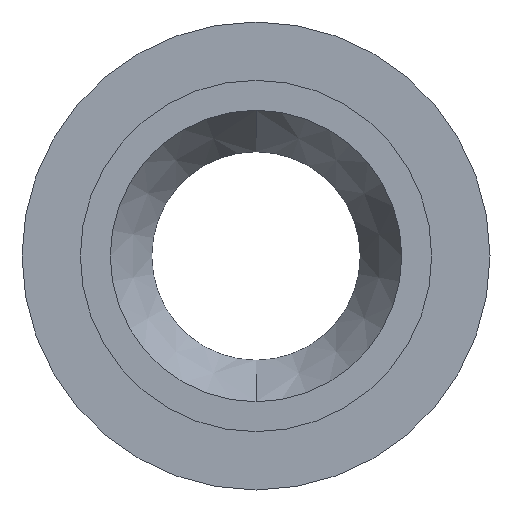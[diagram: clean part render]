
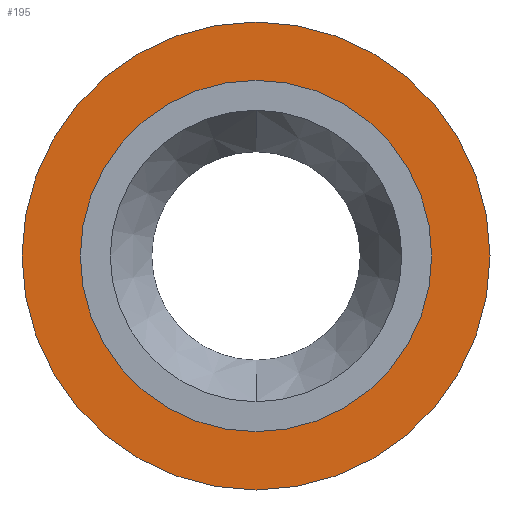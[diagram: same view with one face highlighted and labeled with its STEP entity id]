
A CAD part, front view. The second image highlights one B-rep face of the part: STEP entity #195.
In plain terms, the highlighted planar face has unit normal (0, -1, 0).
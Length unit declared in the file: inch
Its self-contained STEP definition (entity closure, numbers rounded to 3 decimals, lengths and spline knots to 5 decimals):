
#14 = DIRECTION ( 'NONE',  ( 0., 0., 1. ) ) ;
#22 = DIRECTION ( 'NONE',  ( 0., 1., 0. ) ) ;
#27 = CARTESIAN_POINT ( 'NONE',  ( 0., 0.15, 0. ) ) ;
#41 = CARTESIAN_POINT ( 'NONE',  ( 0., 0.15, -0.586 ) ) ;
#52 = EDGE_CURVE ( 'NONE', #125, #80, #367, .T. ) ;
#54 = AXIS2_PLACEMENT_3D ( 'NONE', #27, #355, #215 ) ;
#58 = DIRECTION ( 'NONE',  ( 0., 0., 1. ) ) ;
#60 = CARTESIAN_POINT ( 'NONE',  ( 0., 0.15, 0. ) ) ;
#69 = EDGE_CURVE ( 'NONE', #342, #135, #290, .T. ) ;
#80 = VERTEX_POINT ( 'NONE', #257 ) ;
#94 = ORIENTED_EDGE ( 'NONE', *, *, #69, .T. ) ;
#98 = CARTESIAN_POINT ( 'NONE',  ( 0., 0.15, 0.44 ) ) ;
#100 = CIRCLE ( 'NONE', #54, 0.44 ) ;
#104 = CARTESIAN_POINT ( 'NONE',  ( 0., 0.15, 0. ) ) ;
#105 = AXIS2_PLACEMENT_3D ( 'NONE', #60, #112, #58 ) ;
#112 = DIRECTION ( 'NONE',  ( 0., 1., 0. ) ) ;
#121 = ORIENTED_EDGE ( 'NONE', *, *, #352, .T. ) ;
#125 = VERTEX_POINT ( 'NONE', #41 ) ;
#135 = VERTEX_POINT ( 'NONE', #98 ) ;
#141 = EDGE_LOOP ( 'NONE', ( #94, #121 ) ) ;
#142 = DIRECTION ( 'NONE',  ( 0., 0., 1. ) ) ;
#148 = AXIS2_PLACEMENT_3D ( 'NONE', #167, #223, #14 ) ;
#154 = CARTESIAN_POINT ( 'NONE',  ( 0., 0.15, 0. ) ) ;
#163 = PLANE ( 'NONE',  #238 ) ;
#166 = DIRECTION ( 'NONE',  ( 0., 1., 0. ) ) ;
#167 = CARTESIAN_POINT ( 'NONE',  ( 0., 0.15, 0. ) ) ;
#185 = AXIS2_PLACEMENT_3D ( 'NONE', #154, #22, #380 ) ;
#195 = ADVANCED_FACE ( 'NONE', ( #273, #341 ), #163, .F. ) ;
#215 = DIRECTION ( 'NONE',  ( 0., 0., 1. ) ) ;
#223 = DIRECTION ( 'NONE',  ( 0., 1., 0. ) ) ;
#238 = AXIS2_PLACEMENT_3D ( 'NONE', #104, #166, #142 ) ;
#245 = CARTESIAN_POINT ( 'NONE',  ( 0., 0.15, -0.44 ) ) ;
#257 = CARTESIAN_POINT ( 'NONE',  ( 0., 0.15, 0.586 ) ) ;
#273 = FACE_BOUND ( 'NONE', #141, .T. ) ;
#290 = CIRCLE ( 'NONE', #148, 0.44 ) ;
#294 = ORIENTED_EDGE ( 'NONE', *, *, #52, .F. ) ;
#297 = ORIENTED_EDGE ( 'NONE', *, *, #321, .F. ) ;
#321 = EDGE_CURVE ( 'NONE', #80, #125, #334, .T. ) ;
#334 = CIRCLE ( 'NONE', #185, 0.586 ) ;
#341 = FACE_OUTER_BOUND ( 'NONE', #350, .T. ) ;
#342 = VERTEX_POINT ( 'NONE', #245 ) ;
#350 = EDGE_LOOP ( 'NONE', ( #294, #297 ) ) ;
#352 = EDGE_CURVE ( 'NONE', #135, #342, #100, .T. ) ;
#355 = DIRECTION ( 'NONE',  ( 0., 1., 0. ) ) ;
#367 = CIRCLE ( 'NONE', #105, 0.586 ) ;
#380 = DIRECTION ( 'NONE',  ( 0., 0., 1. ) ) ;
